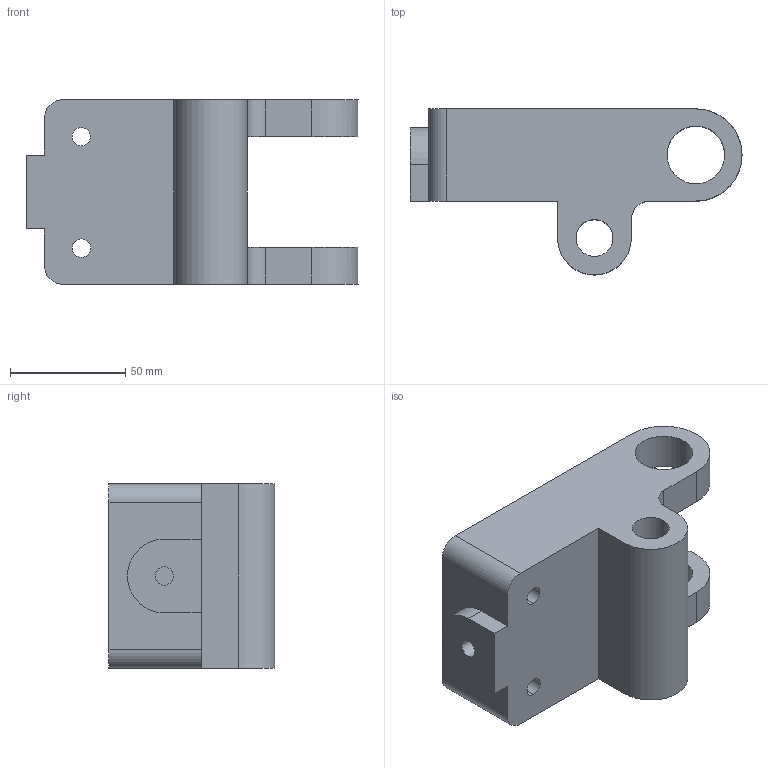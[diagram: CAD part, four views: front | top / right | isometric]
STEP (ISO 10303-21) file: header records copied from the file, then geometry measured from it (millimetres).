
FILE_DESCRIPTION (( 'STEP AP214' ), '1' );
FILE_NAME ('c07_exe02.STEP', '2016-07-26T05:38:08', ( '' ), ( '' ), 'SwSTEP 2.0', 'SolidWorks 2016', '' );
FILE_SCHEMA (( 'AUTOMOTIVE_DESIGN' ));
Length unit declared in the file: millimetre
Products named in the file (1): c07_exe02
Bounding box: 144 x 72 x 80 mm (x, y, z)
Volume: 231378.3 mm3; surface area: 54957.1 mm2
Topology: 1 solids, 1 shells, 48 faces, 135 edges, 90 vertices
Faces by surface type: cylinder 25, plane 23
Entity records: 1625 total; most frequent: DIRECTION 285, CARTESIAN_POINT 274, ORIENTED_EDGE 270, EDGE_CURVE 135, AXIS2_PLACEMENT_3D 101, VERTEX_POINT 90, VECTOR 83, LINE 83
